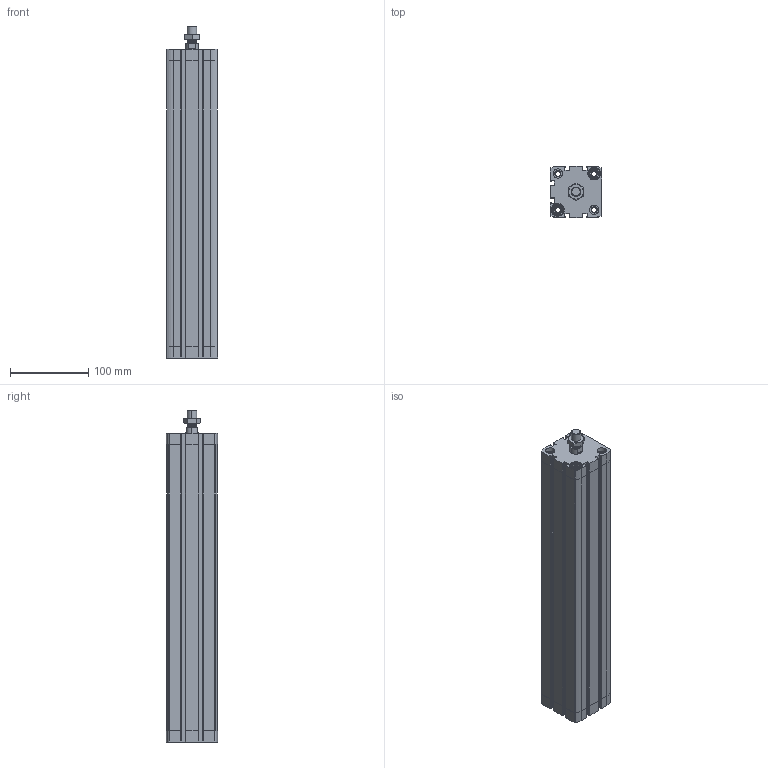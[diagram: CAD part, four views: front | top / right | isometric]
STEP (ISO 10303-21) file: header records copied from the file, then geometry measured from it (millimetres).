
FILE_DESCRIPTION (( 'STEP AP203' ), '1' );
FILE_NAME ('CCN50-350M.STEP', '2017-04-05T13:53:20', ( '' ), ( '' ), 'SwSTEP 2.0', 'SolidWorks 2016', '' );
FILE_SCHEMA (( 'CONFIG_CONTROL_DESIGN' ));
Length unit declared in the file: millimetre
Products named in the file (4): CCN-350---(Z); CCN-350_(KS); _DIN-439-B - M12x1.25(F); CCN50-350M
Assembly tree (3 placements, depth 2):
  CCN50-350M
    CCN-350---(Z)
    CCN-350_(KS)
    _DIN-439-B - M12x1.25(F)
Bounding box: 65.5 x 65.5 x 424.7 mm (x, y, z)
Volume: 908975.7 mm3; surface area: 260807.6 mm2
Topology: 3 solids, 3 shells, 491 faces, 1316 edges, 862 vertices
Faces by surface type: plane 227, cylinder 212, cone 48, bspline 4
Entity records: 16072 total; most frequent: CARTESIAN_POINT 3135, DIRECTION 2672, ORIENTED_EDGE 2632, EDGE_CURVE 1316, AXIS2_PLACEMENT_3D 977, VERTEX_POINT 862, LINE 718, VECTOR 718
